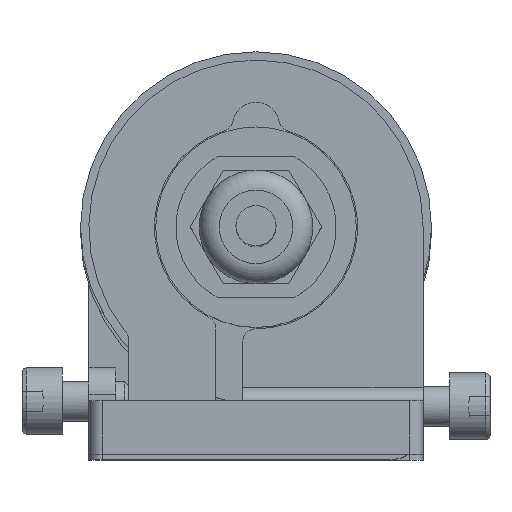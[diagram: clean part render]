
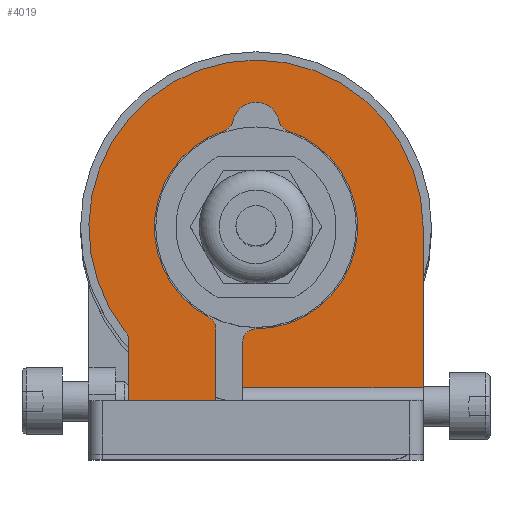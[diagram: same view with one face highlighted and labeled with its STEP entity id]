
A CAD part, top view. The second image highlights one B-rep face of the part: STEP entity #4019.
In plain terms, the highlighted planar face has unit normal (0, 0, 1) as drawn and (0, 0, -1) by its records, which use the part's own axes.
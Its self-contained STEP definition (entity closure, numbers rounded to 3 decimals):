
#2458=CARTESIAN_POINT('',(19.,-27.302,-336.5));
#2459=VERTEX_POINT('',#2458);
#2460=CARTESIAN_POINT('',(19.,-24.698,-336.5));
#2461=VERTEX_POINT('',#2460);
#2462=CARTESIAN_POINT('',(19.,-27.302,-336.5));
#2463=DIRECTION('',(0.0,1.0,0.0));
#2464=VECTOR('',#2463,2.604);
#2465=LINE('',#2462,#2464);
#2466=EDGE_CURVE('',#2459,#2461,#2465,.T.);
#3117=CARTESIAN_POINT('',(19.,-16.971,-336.5));
#3118=VERTEX_POINT('',#3117);
#3119=CARTESIAN_POINT('',(19.,-24.698,-336.5));
#3120=DIRECTION('',(0.0,1.0,0.0));
#3121=VECTOR('',#3120,7.727);
#3122=LINE('',#3119,#3121);
#3123=EDGE_CURVE('',#2461,#3118,#3122,.T.);
#3148=CARTESIAN_POINT('',(19.,-28.,-336.5));
#3149=VERTEX_POINT('',#3148);
#3156=CARTESIAN_POINT('',(19.,-28.,-336.5));
#3157=DIRECTION('',(0.0,1.0,0.0));
#3158=VECTOR('',#3157,0.698);
#3159=LINE('',#3156,#3158);
#3160=EDGE_CURVE('',#3149,#2459,#3159,.T.);
#3787=CARTESIAN_POINT('',(6.,-32.,-336.5));
#3788=VERTEX_POINT('',#3787);
#3789=CARTESIAN_POINT('',(7.,-33.,-336.5));
#3790=VERTEX_POINT('',#3789);
#3791=CARTESIAN_POINT('',(7.,-32.,-336.5));
#3792=DIRECTION('',(0.,0.,1.));
#3793=DIRECTION('',(-0.707,-0.707,0.));
#3794=AXIS2_PLACEMENT_3D('',#3791,#3792,#3793);
#3795=CIRCLE('',#3794,1.);
#3796=EDGE_CURVE('',#3788,#3790,#3795,.T.);
#3830=CARTESIAN_POINT('',(13.,-33.,-336.5));
#3831=VERTEX_POINT('',#3830);
#3832=CARTESIAN_POINT('',(7.,-33.,-336.5));
#3833=DIRECTION('',(1.0,0.0,0.0));
#3834=VECTOR('',#3833,6.);
#3835=LINE('',#3832,#3834);
#3836=EDGE_CURVE('',#3790,#3831,#3835,.T.);
#3855=CARTESIAN_POINT('',(0.,-4.703,-336.5));
#3856=DIRECTION('',(0.0,0.0,-1.0));
#3857=DIRECTION('',(0.0,1.0,0.0));
#3858=AXIS2_PLACEMENT_3D('',#3855,#3856,#3857);
#3859=PLANE('',#3858);
#3860=ORIENTED_EDGE('',*,*,#3796,.F.);
#3861=CARTESIAN_POINT('',(6.,-15.226,-336.5));
#3862=VERTEX_POINT('',#3861);
#3863=CARTESIAN_POINT('',(6.,-32.,-336.5));
#3864=DIRECTION('',(0.0,1.0,0.0));
#3865=VECTOR('',#3864,16.774);
#3866=LINE('',#3863,#3865);
#3867=EDGE_CURVE('',#3788,#3862,#3866,.T.);
#3868=ORIENTED_EDGE('',*,*,#3867,.T.);
#3869=CARTESIAN_POINT('',(7.07,-13.456,-336.5));
#3870=VERTEX_POINT('',#3869);
#3871=CARTESIAN_POINT('',(8.,-15.226,-336.5));
#3872=DIRECTION('',(0.,0.,1.0));
#3873=DIRECTION('',(-0.856,0.517,0.));
#3874=AXIS2_PLACEMENT_3D('',#3871,#3872,#3873);
#3875=CIRCLE('',#3874,2.);
#3876=EDGE_CURVE('',#3870,#3862,#3875,.T.);
#3877=ORIENTED_EDGE('',*,*,#3876,.F.);
#3878=CARTESIAN_POINT('',(4.756,14.437,-336.5));
#3879=VERTEX_POINT('',#3878);
#3880=CARTESIAN_POINT('',(0.,0.0,-336.5));
#3881=DIRECTION('',(0.,0.,1.));
#3882=DIRECTION('',(0.395,-0.919,0.));
#3883=AXIS2_PLACEMENT_3D('',#3880,#3881,#3882);
#3884=CIRCLE('',#3883,15.2);
#3885=EDGE_CURVE('',#3870,#3879,#3884,.T.);
#3886=ORIENTED_EDGE('',*,*,#3885,.T.);
#3887=CARTESIAN_POINT('',(3.424,15.923,-336.5));
#3888=VERTEX_POINT('',#3887);
#3889=CARTESIAN_POINT('',(5.381,16.337,-336.5));
#3890=DIRECTION('',(0.,0.,1.));
#3891=DIRECTION('',(-0.745,-0.667,0.));
#3892=AXIS2_PLACEMENT_3D('',#3889,#3890,#3891);
#3893=CIRCLE('',#3892,2.0);
#3894=EDGE_CURVE('',#3888,#3879,#3893,.T.);
#3895=ORIENTED_EDGE('',*,*,#3894,.F.);
#3896=CARTESIAN_POINT('',(-3.424,15.923,-336.5));
#3897=VERTEX_POINT('',#3896);
#3898=CARTESIAN_POINT('',(0.,15.2,-336.5));
#3899=DIRECTION('',(0.0,0.0,1.0));
#3900=DIRECTION('',(-1.0,0.0,0.0));
#3901=AXIS2_PLACEMENT_3D('',#3898,#3899,#3900);
#3902=CIRCLE('',#3901,3.5);
#3903=EDGE_CURVE('',#3888,#3897,#3902,.T.);
#3904=ORIENTED_EDGE('',*,*,#3903,.T.);
#3905=CARTESIAN_POINT('',(-4.756,14.437,-336.5));
#3906=VERTEX_POINT('',#3905);
#3907=CARTESIAN_POINT('',(-5.381,16.337,-336.5));
#3908=DIRECTION('',(0.,0.,1.));
#3909=DIRECTION('',(0.745,-0.667,0.));
#3910=AXIS2_PLACEMENT_3D('',#3907,#3908,#3909);
#3911=CIRCLE('',#3910,2.0);
#3912=EDGE_CURVE('',#3906,#3897,#3911,.T.);
#3913=ORIENTED_EDGE('',*,*,#3912,.F.);
#3914=CARTESIAN_POINT('',(0.,-15.2,-336.5));
#3915=VERTEX_POINT('',#3914);
#3916=CARTESIAN_POINT('',(0.,0.0,-336.5));
#3917=DIRECTION('',(0.,0.,1.));
#3918=DIRECTION('',(0.395,-0.919,0.));
#3919=AXIS2_PLACEMENT_3D('',#3916,#3917,#3918);
#3920=CIRCLE('',#3919,15.2);
#3921=EDGE_CURVE('',#3906,#3915,#3920,.T.);
#3922=ORIENTED_EDGE('',*,*,#3921,.T.);
#3923=CARTESIAN_POINT('',(2.,-17.2,-336.5));
#3924=VERTEX_POINT('',#3923);
#3925=CARTESIAN_POINT('',(0.,-17.2,-336.5));
#3926=DIRECTION('',(0.,0.,1.0));
#3927=DIRECTION('',(0.707,0.707,0.));
#3928=AXIS2_PLACEMENT_3D('',#3925,#3926,#3927);
#3929=CIRCLE('',#3928,2.);
#3930=EDGE_CURVE('',#3924,#3915,#3929,.T.);
#3931=ORIENTED_EDGE('',*,*,#3930,.F.);
#3932=CARTESIAN_POINT('',(2.,-24.,-336.5));
#3933=VERTEX_POINT('',#3932);
#3934=CARTESIAN_POINT('',(2.,-17.2,-336.5));
#3935=DIRECTION('',(0.0,-1.0,0.0));
#3936=VECTOR('',#3935,6.8);
#3937=LINE('',#3934,#3936);
#3938=EDGE_CURVE('',#3924,#3933,#3937,.T.);
#3939=ORIENTED_EDGE('',*,*,#3938,.T.);
#3940=CARTESIAN_POINT('',(-25.,-24.,-336.5));
#3941=VERTEX_POINT('',#3940);
#3942=CARTESIAN_POINT('',(-25.,-24.,-336.5));
#3943=DIRECTION('',(1.0,0.0,0.0));
#3944=VECTOR('',#3943,27.);
#3945=LINE('',#3942,#3944);
#3946=EDGE_CURVE('',#3941,#3933,#3945,.T.);
#3947=ORIENTED_EDGE('',*,*,#3946,.F.);
#3948=CARTESIAN_POINT('',(-25.,0.,-336.5));
#3949=VERTEX_POINT('',#3948);
#3950=CARTESIAN_POINT('',(-25.,0.,-336.5));
#3951=DIRECTION('',(0.0,-1.0,0.0));
#3952=VECTOR('',#3951,24.);
#3953=LINE('',#3950,#3952);
#3954=EDGE_CURVE('',#3949,#3941,#3953,.T.);
#3955=ORIENTED_EDGE('',*,*,#3954,.F.);
#3956=CARTESIAN_POINT('',(19.444,-15.713,-336.5));
#3957=VERTEX_POINT('',#3956);
#3958=CARTESIAN_POINT('',(0.,0.0,-336.5));
#3959=DIRECTION('',(0.0,0.0,1.0));
#3960=DIRECTION('',(1.0,0.0,0.0));
#3961=AXIS2_PLACEMENT_3D('',#3958,#3959,#3960);
#3962=CIRCLE('',#3961,25.);
#3963=EDGE_CURVE('',#3957,#3949,#3962,.T.);
#3964=ORIENTED_EDGE('',*,*,#3963,.F.);
#3965=CARTESIAN_POINT('',(21.,-16.971,-336.5));
#3966=DIRECTION('',(0.,0.,-1.));
#3967=DIRECTION('',(-0.943,0.333,0.));
#3968=AXIS2_PLACEMENT_3D('',#3965,#3966,#3967);
#3969=CIRCLE('',#3968,2.);
#3970=EDGE_CURVE('',#3118,#3957,#3969,.T.);
#3971=ORIENTED_EDGE('',*,*,#3970,.F.);
#3972=ORIENTED_EDGE('',*,*,#3123,.F.);
#3973=ORIENTED_EDGE('',*,*,#2466,.F.);
#3974=ORIENTED_EDGE('',*,*,#3160,.F.);
#3975=CARTESIAN_POINT('',(18.,-29.,-336.5));
#3976=VERTEX_POINT('',#3975);
#3977=CARTESIAN_POINT('',(18.,-28.,-336.5));
#3978=DIRECTION('',(0.,0.,1.));
#3979=DIRECTION('',(0.707,-0.707,0.));
#3980=AXIS2_PLACEMENT_3D('',#3977,#3978,#3979);
#3981=CIRCLE('',#3980,1.);
#3982=EDGE_CURVE('',#3976,#3149,#3981,.T.);
#3983=ORIENTED_EDGE('',*,*,#3982,.F.);
#3984=CARTESIAN_POINT('',(15.,-29.,-336.5));
#3985=VERTEX_POINT('',#3984);
#3986=CARTESIAN_POINT('',(18.,-29.,-336.5));
#3987=DIRECTION('',(-1.0,0.0,0.0));
#3988=VECTOR('',#3987,3.0);
#3989=LINE('',#3986,#3988);
#3990=EDGE_CURVE('',#3976,#3985,#3989,.T.);
#3991=ORIENTED_EDGE('',*,*,#3990,.T.);
#3992=CARTESIAN_POINT('',(14.,-30.,-336.5));
#3993=VERTEX_POINT('',#3992);
#3994=CARTESIAN_POINT('',(15.,-30.,-336.5));
#3995=DIRECTION('',(0.,0.,-1.));
#3996=DIRECTION('',(-0.707,0.707,0.));
#3997=AXIS2_PLACEMENT_3D('',#3994,#3995,#3996);
#3998=CIRCLE('',#3997,1.);
#3999=EDGE_CURVE('',#3993,#3985,#3998,.T.);
#4000=ORIENTED_EDGE('',*,*,#3999,.F.);
#4001=CARTESIAN_POINT('',(14.,-32.,-336.5));
#4002=VERTEX_POINT('',#4001);
#4003=CARTESIAN_POINT('',(14.,-30.,-336.5));
#4004=DIRECTION('',(0.0,-1.0,0.0));
#4005=VECTOR('',#4004,2.);
#4006=LINE('',#4003,#4005);
#4007=EDGE_CURVE('',#3993,#4002,#4006,.T.);
#4008=ORIENTED_EDGE('',*,*,#4007,.T.);
#4009=CARTESIAN_POINT('',(13.,-32.,-336.5));
#4010=DIRECTION('',(0.,0.,1.));
#4011=DIRECTION('',(0.707,-0.707,0.));
#4012=AXIS2_PLACEMENT_3D('',#4009,#4010,#4011);
#4013=CIRCLE('',#4012,1.);
#4014=EDGE_CURVE('',#3831,#4002,#4013,.T.);
#4015=ORIENTED_EDGE('',*,*,#4014,.F.);
#4016=ORIENTED_EDGE('',*,*,#3836,.F.);
#4017=EDGE_LOOP('',(#3860,#3868,#3877,#3886,#3895,#3904,#3913,#3922,#3931,#3939,#3947,#3955,#3964,#3971,#3972,#3973,#3974,#3983,#3991,#4000,#4008,#4015,#4016));
#4018=FACE_OUTER_BOUND('',#4017,.T.);
#4019=ADVANCED_FACE('',(#4018),#3859,.T.);
